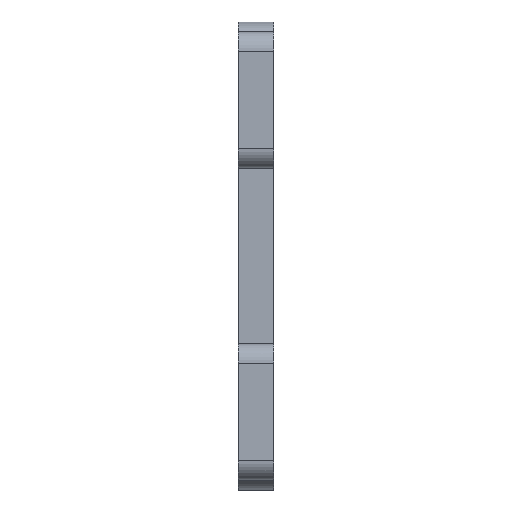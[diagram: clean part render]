
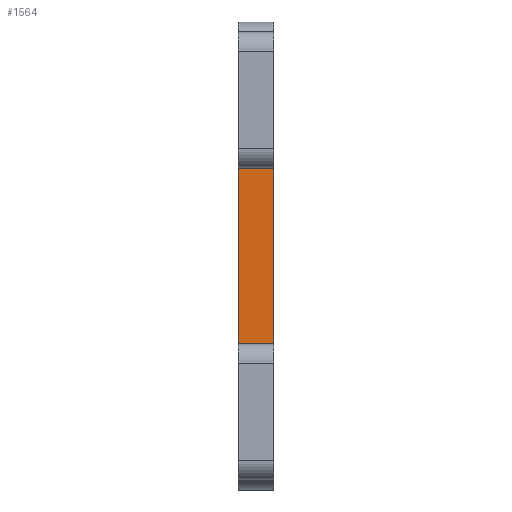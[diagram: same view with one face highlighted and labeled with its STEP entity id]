
A CAD part, left-side view. The second image highlights one B-rep face of the part: STEP entity #1564.
In plain terms, the highlighted planar face has unit normal (-1, 0, 0).
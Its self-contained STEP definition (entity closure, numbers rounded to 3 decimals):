
#50 = PLANE('',#51);
#51 = AXIS2_PLACEMENT_3D('',#52,#53,#54);
#52 = CARTESIAN_POINT('',(-17.,28.6,68.));
#53 = DIRECTION('',(0.,1.,0.));
#54 = DIRECTION('',(1.,0.,0.));
#629 = VERTEX_POINT('',#630);
#630 = CARTESIAN_POINT('',(-17.,28.6,51.5));
#644 = PLANE('',#645);
#645 = AXIS2_PLACEMENT_3D('',#646,#647,#648);
#646 = CARTESIAN_POINT('',(-21.98,26.8,51.5));
#647 = DIRECTION('',(0.,0.,-1.));
#648 = DIRECTION('',(0.,1.,0.));
#656 = EDGE_CURVE('',#657,#629,#659,.T.);
#657 = VERTEX_POINT('',#658);
#658 = CARTESIAN_POINT('',(-17.,28.6,60.5));
#659 = SURFACE_CURVE('',#660,(#664,#671),.PCURVE_S1.);
#660 = LINE('',#661,#662);
#661 = CARTESIAN_POINT('',(-17.,28.6,68.));
#662 = VECTOR('',#663,1.);
#663 = DIRECTION('',(0.,0.,-1.));
#664 = PCURVE('',#50,#665);
#665 = DEFINITIONAL_REPRESENTATION('',(#666),#670);
#666 = LINE('',#667,#668);
#667 = CARTESIAN_POINT('',(0.,0.));
#668 = VECTOR('',#669,1.);
#669 = DIRECTION('',(0.,1.));
#670 = ( GEOMETRIC_REPRESENTATION_CONTEXT(2) 
PARAMETRIC_REPRESENTATION_CONTEXT() REPRESENTATION_CONTEXT('2D SPACE',''
  ) );
#671 = PCURVE('',#672,#677);
#672 = PLANE('',#673);
#673 = AXIS2_PLACEMENT_3D('',#674,#675,#676);
#674 = CARTESIAN_POINT('',(-17.,26.8,68.));
#675 = DIRECTION('',(1.,0.,0.));
#676 = DIRECTION('',(0.,1.,0.));
#677 = DEFINITIONAL_REPRESENTATION('',(#678),#682);
#678 = LINE('',#679,#680);
#679 = CARTESIAN_POINT('',(1.8,0.));
#680 = VECTOR('',#681,1.);
#681 = DIRECTION('',(0.,-1.));
#682 = ( GEOMETRIC_REPRESENTATION_CONTEXT(2) 
PARAMETRIC_REPRESENTATION_CONTEXT() REPRESENTATION_CONTEXT('2D SPACE',''
  ) );
#700 = PLANE('',#701);
#701 = AXIS2_PLACEMENT_3D('',#702,#703,#704);
#702 = CARTESIAN_POINT('',(-21.98,26.8,60.5));
#703 = DIRECTION('',(0.,0.,-1.));
#704 = DIRECTION('',(0.,1.,0.));
#1284 = PLANE('',#1285);
#1285 = AXIS2_PLACEMENT_3D('',#1286,#1287,#1288);
#1286 = CARTESIAN_POINT('',(-21.98,26.8,67.5));
#1287 = DIRECTION('',(0.,1.,0.));
#1288 = DIRECTION('',(1.,0.,0.));
#1472 = VERTEX_POINT('',#1473);
#1473 = CARTESIAN_POINT('',(-17.,26.8,60.5));
#1496 = EDGE_CURVE('',#1472,#657,#1497,.T.);
#1497 = SURFACE_CURVE('',#1498,(#1502,#1508),.PCURVE_S1.);
#1498 = LINE('',#1499,#1500);
#1499 = CARTESIAN_POINT('',(-17.,26.8,60.5));
#1500 = VECTOR('',#1501,1.);
#1501 = DIRECTION('',(-0.,1.,0.));
#1502 = PCURVE('',#700,#1503);
#1503 = DEFINITIONAL_REPRESENTATION('',(#1504),#1507);
#1504 = B_SPLINE_CURVE_WITH_KNOTS('',1,(#1505,#1506),.UNSPECIFIED.,.F.,
  .F.,(2,2),(0.,1.8),.PIECEWISE_BEZIER_KNOTS.);
#1505 = CARTESIAN_POINT('',(0.,4.98));
#1506 = CARTESIAN_POINT('',(1.8,4.98));
#1507 = ( GEOMETRIC_REPRESENTATION_CONTEXT(2) 
PARAMETRIC_REPRESENTATION_CONTEXT() REPRESENTATION_CONTEXT('2D SPACE',''
  ) );
#1508 = PCURVE('',#672,#1509);
#1509 = DEFINITIONAL_REPRESENTATION('',(#1510),#1513);
#1510 = B_SPLINE_CURVE_WITH_KNOTS('',1,(#1511,#1512),.UNSPECIFIED.,.F.,
  .F.,(2,2),(0.,1.8),.PIECEWISE_BEZIER_KNOTS.);
#1511 = CARTESIAN_POINT('',(0.,-7.5));
#1512 = CARTESIAN_POINT('',(1.8,-7.5));
#1513 = ( GEOMETRIC_REPRESENTATION_CONTEXT(2) 
PARAMETRIC_REPRESENTATION_CONTEXT() REPRESENTATION_CONTEXT('2D SPACE',''
  ) );
#1564 = ADVANCED_FACE('',(#1565),#672,.F.);
#1565 = FACE_BOUND('',#1566,.F.);
#1566 = EDGE_LOOP('',(#1567,#1568,#1569,#1592));
#1567 = ORIENTED_EDGE('',*,*,#656,.F.);
#1568 = ORIENTED_EDGE('',*,*,#1496,.F.);
#1569 = ORIENTED_EDGE('',*,*,#1570,.T.);
#1570 = EDGE_CURVE('',#1472,#1571,#1573,.T.);
#1571 = VERTEX_POINT('',#1572);
#1572 = CARTESIAN_POINT('',(-17.,26.8,51.5));
#1573 = SURFACE_CURVE('',#1574,(#1578,#1585),.PCURVE_S1.);
#1574 = LINE('',#1575,#1576);
#1575 = CARTESIAN_POINT('',(-17.,26.8,68.));
#1576 = VECTOR('',#1577,1.);
#1577 = DIRECTION('',(0.,0.,-1.));
#1578 = PCURVE('',#672,#1579);
#1579 = DEFINITIONAL_REPRESENTATION('',(#1580),#1584);
#1580 = LINE('',#1581,#1582);
#1581 = CARTESIAN_POINT('',(0.,0.));
#1582 = VECTOR('',#1583,1.);
#1583 = DIRECTION('',(0.,-1.));
#1584 = ( GEOMETRIC_REPRESENTATION_CONTEXT(2) 
PARAMETRIC_REPRESENTATION_CONTEXT() REPRESENTATION_CONTEXT('2D SPACE',''
  ) );
#1585 = PCURVE('',#1284,#1586);
#1586 = DEFINITIONAL_REPRESENTATION('',(#1587),#1591);
#1587 = LINE('',#1588,#1589);
#1588 = CARTESIAN_POINT('',(4.98,-0.5));
#1589 = VECTOR('',#1590,1.);
#1590 = DIRECTION('',(0.,1.));
#1591 = ( GEOMETRIC_REPRESENTATION_CONTEXT(2) 
PARAMETRIC_REPRESENTATION_CONTEXT() REPRESENTATION_CONTEXT('2D SPACE',''
  ) );
#1592 = ORIENTED_EDGE('',*,*,#1593,.T.);
#1593 = EDGE_CURVE('',#1571,#629,#1594,.T.);
#1594 = SURFACE_CURVE('',#1595,(#1599,#1605),.PCURVE_S1.);
#1595 = LINE('',#1596,#1597);
#1596 = CARTESIAN_POINT('',(-17.,26.8,51.5));
#1597 = VECTOR('',#1598,1.);
#1598 = DIRECTION('',(-0.,1.,0.));
#1599 = PCURVE('',#672,#1600);
#1600 = DEFINITIONAL_REPRESENTATION('',(#1601),#1604);
#1601 = B_SPLINE_CURVE_WITH_KNOTS('',1,(#1602,#1603),.UNSPECIFIED.,.F.,
  .F.,(2,2),(0.,1.8),.PIECEWISE_BEZIER_KNOTS.);
#1602 = CARTESIAN_POINT('',(0.,-16.5));
#1603 = CARTESIAN_POINT('',(1.8,-16.5));
#1604 = ( GEOMETRIC_REPRESENTATION_CONTEXT(2) 
PARAMETRIC_REPRESENTATION_CONTEXT() REPRESENTATION_CONTEXT('2D SPACE',''
  ) );
#1605 = PCURVE('',#644,#1606);
#1606 = DEFINITIONAL_REPRESENTATION('',(#1607),#1610);
#1607 = B_SPLINE_CURVE_WITH_KNOTS('',1,(#1608,#1609),.UNSPECIFIED.,.F.,
  .F.,(2,2),(0.,1.8),.PIECEWISE_BEZIER_KNOTS.);
#1608 = CARTESIAN_POINT('',(0.,4.98));
#1609 = CARTESIAN_POINT('',(1.8,4.98));
#1610 = ( GEOMETRIC_REPRESENTATION_CONTEXT(2) 
PARAMETRIC_REPRESENTATION_CONTEXT() REPRESENTATION_CONTEXT('2D SPACE',''
  ) );
